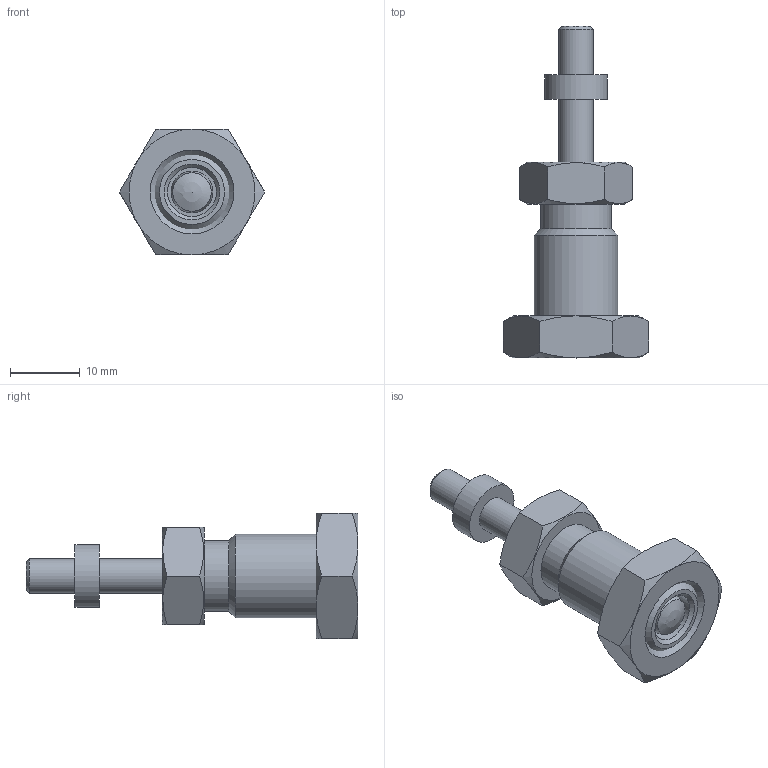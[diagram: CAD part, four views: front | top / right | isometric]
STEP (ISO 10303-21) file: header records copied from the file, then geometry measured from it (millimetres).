
FILE_DESCRIPTION( ( 'STEP AP203' ), '1' );
FILE_NAME( 'C:/Temp/Ganter_Step_05_03_2020/data/3_1/gn817/gn817_ni-rastbolzen/Stainless Steel-Indexing plunger GN 817-6-9-GK-NI (activated-0).stp', '2020-03-12T09:00:03', ( 'License CC BY-ND 4.0' ), ( 'CADENAS' ), ' ', 'PARTsolutions', ' ' );
FILE_SCHEMA( ( 'CONFIG_CONTROL_DESIGN' ) );
Length unit declared in the file: millimetre
Products named in the file (5): Stainless Steel-Indexing plunger GN 817-6-9-GK-NI (activated-0); _Stainless steel-Indexing plunger GN 817-6-9-GK-NI (activated-0)-d; _Stainless steel-Indexing plunger GN 817-6-9-B-NI-2; _Stainless Steel-Indexing plunger GN 817-6-9-G-NI-6; _Stainless steel-Indexing plunger GN 817-6-9-BK-NI (deactivated-0)-3
Assembly tree (4 placements, depth 2):
  Stainless Steel-Indexing plunger GN 817-6-9-GK-NI (activated-0)
    _Stainless steel-Indexing plunger GN 817-6-9-GK-NI (activated-0)-d
    _Stainless steel-Indexing plunger GN 817-6-9-B-NI-2
    _Stainless Steel-Indexing plunger GN 817-6-9-G-NI-6
    _Stainless steel-Indexing plunger GN 817-6-9-BK-NI (deactivated-0)-3
Bounding box: 20.78 x 47.5 x 18 mm (x, y, z)
Volume: 4896.3 mm3; surface area: 3931.4 mm2
Topology: 3 solids, 3 shells, 58 faces, 116 edges, 70 vertices
Faces by surface type: plane 23, cone 22, cylinder 10, torus 2, sphere 1
Full cylindrical faces by diameter (mm): 5 x3, 6 x1, 7 x2, 9 x1, 10.1 x1, 10.376 x1, 12 x1
Entity records: 1720 total; most frequent: CARTESIAN_POINT 483, DIRECTION 224, ORIENTED_EDGE 182, AXIS2_PLACEMENT_3D 106, EDGE_CURVE 91, EDGE_LOOP 90, FACE_OUTER_BOUND 70, VERTEX_POINT 68
